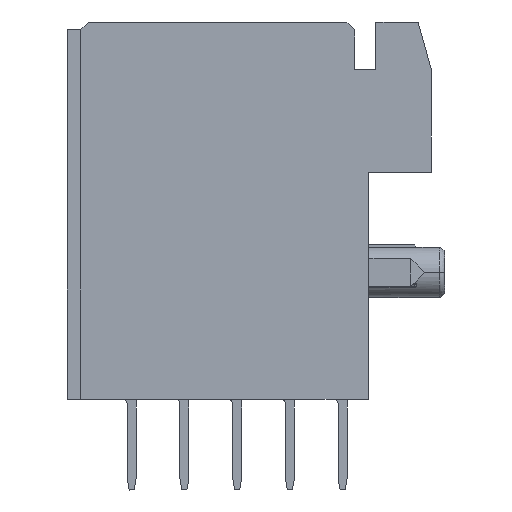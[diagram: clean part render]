
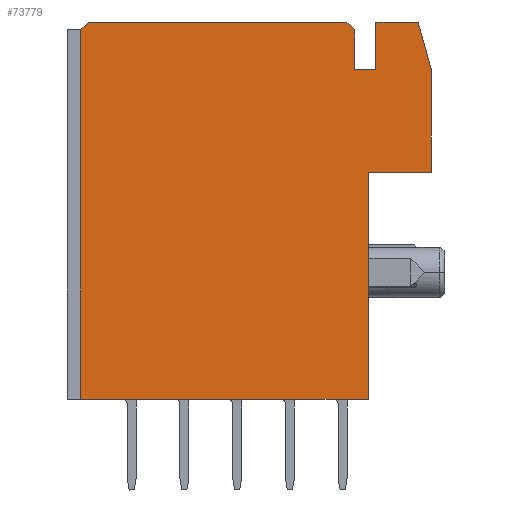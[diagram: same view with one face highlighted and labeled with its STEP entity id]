
A CAD part, front view. The second image highlights one B-rep face of the part: STEP entity #73779.
In plain terms, the highlighted planar face has unit normal (0, -1, 0).
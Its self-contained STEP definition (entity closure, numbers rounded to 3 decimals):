
#2743 = VECTOR ( 'NONE', #5510, 1000. ) ;
#2920 = VECTOR ( 'NONE', #6086, 1000. ) ;
#3601 = VECTOR ( 'NONE', #8079, 1000. ) ;
#5508 = LINE ( 'NONE', #5509, #2743 ) ;
#5509 = CARTESIAN_POINT ( 'NONE',  ( -22.912, -40.423, 18.94 ) ) ;
#5510 = DIRECTION ( 'NONE',  ( 0., 0., -1. ) ) ;
#6080 = LINE ( 'NONE', #6084, #2920 ) ;
#6084 = CARTESIAN_POINT ( 'NONE',  ( -25.212, -40.423, 19.24 ) ) ;
#6086 = DIRECTION ( 'NONE',  ( 1., 0., 0. ) ) ;
#8077 = LINE ( 'NONE', #8078, #3601 ) ;
#8078 = CARTESIAN_POINT ( 'NONE',  ( -23.212, -40.423, 19.24 ) ) ;
#8079 = DIRECTION ( 'NONE',  ( 0.707, 0., -0.707 ) ) ;
#16494 = EDGE_CURVE ( 'NONE', #99537, #99532, #55941, .T. ) ;
#16502 = EDGE_CURVE ( 'NONE', #26301, #99427, #55463, .T. ) ;
#16505 = EDGE_CURVE ( 'NONE', #26308, #26301, #57390, .T. ) ;
#16513 = EDGE_CURVE ( 'NONE', #26312, #26308, #57323, .T. ) ;
#16519 = EDGE_CURVE ( 'NONE', #26303, #26312, #58065, .T. ) ;
#16530 = EDGE_CURVE ( 'NONE', #26304, #26303, #57614, .T. ) ;
#16535 = EDGE_CURVE ( 'NONE', #99663, #26304, #57497, .T. ) ;
#17228 = EDGE_CURVE ( 'NONE', #99417, #99537, #85714, .T. ) ;
#17393 = EDGE_CURVE ( 'NONE', #99427, #99417, #84872, .T. ) ;
#17465 = EDGE_CURVE ( 'NONE', #99532, #99582, #84381, .T. ) ;
#18424 = CARTESIAN_POINT ( 'NONE',  ( -22.412, -40.423, 4.94 ) ) ;
#18448 = CARTESIAN_POINT ( 'NONE',  ( -22.412, -40.423, 13.54 ) ) ;
#18651 = CARTESIAN_POINT ( 'NONE',  ( -33.312, -40.423, 18.939 ) ) ;
#18665 = CARTESIAN_POINT ( 'NONE',  ( -33.312, -40.423, 4.939 ) ) ;
#18778 = CARTESIAN_POINT ( 'NONE',  ( -33.012, -40.423, 19.239 ) ) ;
#18819 = CARTESIAN_POINT ( 'NONE',  ( -23.212, -40.423, 19.24 ) ) ;
#18893 = CARTESIAN_POINT ( 'NONE',  ( -22.912, -40.423, 17.44 ) ) ;
#18938 = CARTESIAN_POINT ( 'NONE',  ( -22.912, -40.423, 18.94 ) ) ;
#26301 = VERTEX_POINT ( 'NONE', #108132 ) ;
#26303 = VERTEX_POINT ( 'NONE', #108134 ) ;
#26304 = VERTEX_POINT ( 'NONE', #108135 ) ;
#26308 = VERTEX_POINT ( 'NONE', #108137 ) ;
#26312 = VERTEX_POINT ( 'NONE', #108139 ) ;
#30079 = VECTOR ( 'NONE', #55212, 1000. ) ;
#30091 = VECTOR ( 'NONE', #55627, 1000. ) ;
#30094 = VECTOR ( 'NONE', #54897, 1000. ) ;
#30100 = VECTOR ( 'NONE', #58292, 1000. ) ;
#30106 = VECTOR ( 'NONE', #58069, 1000. ) ;
#30109 = VECTOR ( 'NONE', #55833, 1000. ) ;
#30114 = VECTOR ( 'NONE', #56849, 1000. ) ;
#30634 = VECTOR ( 'NONE', #84372, 1000. ) ;
#33671 = VECTOR ( 'NONE', #84832, 1000. ) ;
#33728 = VECTOR ( 'NONE', #85580, 1000. ) ;
#43190 = AXIS2_PLACEMENT_3D ( 'NONE', #48333, #48334, #48335 ) ;
#48328 = FACE_OUTER_BOUND ( 'NONE', #110900, .T. ) ;
#48332 = PLANE ( 'NONE',  #43190 ) ;
#48333 = CARTESIAN_POINT ( 'NONE',  ( -22.012, -40.423, 19.24 ) ) ;
#48334 = DIRECTION ( 'NONE',  ( 0., 1., 0. ) ) ;
#48335 = DIRECTION ( 'NONE',  ( 0., 0., -1. ) ) ;
#54693 = CARTESIAN_POINT ( 'NONE',  ( -20.512, -40.423, 19.24 ) ) ;
#54897 = DIRECTION ( 'NONE',  ( 0., 0., -1. ) ) ;
#55212 = DIRECTION ( 'NONE',  ( 0., 0., 1. ) ) ;
#55463 = LINE ( 'NONE', #57078, #30091 ) ;
#55627 = DIRECTION ( 'NONE',  ( -1., 0., 0. ) ) ;
#55833 = DIRECTION ( 'NONE',  ( 0., 0., 1. ) ) ;
#55941 = LINE ( 'NONE', #58351, #30079 ) ;
#56117 = CARTESIAN_POINT ( 'NONE',  ( -20.012, -40.423, 19.24 ) ) ;
#56346 = CARTESIAN_POINT ( 'NONE',  ( -22.112, -40.423, 19.24 ) ) ;
#56849 = DIRECTION ( 'NONE',  ( 1., 0., 0. ) ) ;
#57078 = CARTESIAN_POINT ( 'NONE',  ( -22.012, -40.423, 13.54 ) ) ;
#57200 = CARTESIAN_POINT ( 'NONE',  ( -22.012, -40.423, 17.44 ) ) ;
#57323 = LINE ( 'NONE', #54693, #30100 ) ;
#57390 = LINE ( 'NONE', #56117, #30094 ) ;
#57497 = LINE ( 'NONE', #57200, #30114 ) ;
#57614 = LINE ( 'NONE', #56346, #30109 ) ;
#58065 = LINE ( 'NONE', #58138, #30106 ) ;
#58069 = DIRECTION ( 'NONE',  ( 1., 0., 0. ) ) ;
#58138 = CARTESIAN_POINT ( 'NONE',  ( -22.012, -40.423, 19.24 ) ) ;
#58292 = DIRECTION ( 'NONE',  ( 0.268, 0., -0.964 ) ) ;
#58351 = CARTESIAN_POINT ( 'NONE',  ( -33.312, -40.423, 18.939 ) ) ;
#67860 = EDGE_CURVE ( 'NONE', #99700, #99663, #5508, .T. ) ;
#68138 = EDGE_CURVE ( 'NONE', #99582, #99622, #6080, .T. ) ;
#68841 = EDGE_CURVE ( 'NONE', #99622, #99700, #8077, .T. ) ;
#73779 = ADVANCED_FACE ( 'NONE', ( #48328 ), #48332, .F. ) ;
#84372 = DIRECTION ( 'NONE',  ( -1., 0., 0. ) ) ;
#84381 = LINE ( 'NONE', #85597, #33728 ) ;
#84832 = DIRECTION ( 'NONE',  ( 0., 0., -1. ) ) ;
#84855 = CARTESIAN_POINT ( 'NONE',  ( -22.412, -40.423, 19.24 ) ) ;
#84872 = LINE ( 'NONE', #84855, #33671 ) ;
#85299 = CARTESIAN_POINT ( 'NONE',  ( -24.412, -40.423, 4.94 ) ) ;
#85580 = DIRECTION ( 'NONE',  ( 0.707, 0., 0.707 ) ) ;
#85597 = CARTESIAN_POINT ( 'NONE',  ( -33.312, -40.423, 18.939 ) ) ;
#85714 = LINE ( 'NONE', #85299, #30634 ) ;
#99417 = VERTEX_POINT ( 'NONE', #18424 ) ;
#99427 = VERTEX_POINT ( 'NONE', #18448 ) ;
#99532 = VERTEX_POINT ( 'NONE', #18651 ) ;
#99537 = VERTEX_POINT ( 'NONE', #18665 ) ;
#99582 = VERTEX_POINT ( 'NONE', #18778 ) ;
#99622 = VERTEX_POINT ( 'NONE', #18819 ) ;
#99663 = VERTEX_POINT ( 'NONE', #18893 ) ;
#99700 = VERTEX_POINT ( 'NONE', #18938 ) ;
#102668 = ORIENTED_EDGE ( 'NONE', *, *, #17393, .F. ) ;
#102669 = ORIENTED_EDGE ( 'NONE', *, *, #17228, .F. ) ;
#102670 = ORIENTED_EDGE ( 'NONE', *, *, #16494, .F. ) ;
#102672 = ORIENTED_EDGE ( 'NONE', *, *, #17465, .F. ) ;
#102673 = ORIENTED_EDGE ( 'NONE', *, *, #68138, .F. ) ;
#102674 = ORIENTED_EDGE ( 'NONE', *, *, #68841, .F. ) ;
#102675 = ORIENTED_EDGE ( 'NONE', *, *, #67860, .F. ) ;
#102677 = ORIENTED_EDGE ( 'NONE', *, *, #16535, .F. ) ;
#102679 = ORIENTED_EDGE ( 'NONE', *, *, #16530, .F. ) ;
#102681 = ORIENTED_EDGE ( 'NONE', *, *, #16519, .F. ) ;
#102683 = ORIENTED_EDGE ( 'NONE', *, *, #16513, .F. ) ;
#102684 = ORIENTED_EDGE ( 'NONE', *, *, #16505, .F. ) ;
#102685 = ORIENTED_EDGE ( 'NONE', *, *, #16502, .F. ) ;
#108132 = CARTESIAN_POINT ( 'NONE',  ( -20.012, -40.423, 13.54 ) ) ;
#108134 = CARTESIAN_POINT ( 'NONE',  ( -22.112, -40.423, 19.24 ) ) ;
#108135 = CARTESIAN_POINT ( 'NONE',  ( -22.112, -40.423, 17.44 ) ) ;
#108137 = CARTESIAN_POINT ( 'NONE',  ( -20.012, -40.423, 17.44 ) ) ;
#108139 = CARTESIAN_POINT ( 'NONE',  ( -20.512, -40.423, 19.24 ) ) ;
#110900 = EDGE_LOOP ( 'NONE', ( #102685, #102684, #102683, #102681, #102679, #102677, #102675, #102674, #102673, #102672, #102670, #102669, #102668 ) ) ;
